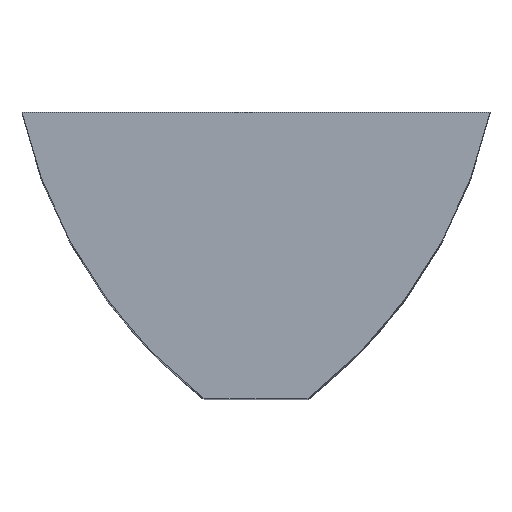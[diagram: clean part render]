
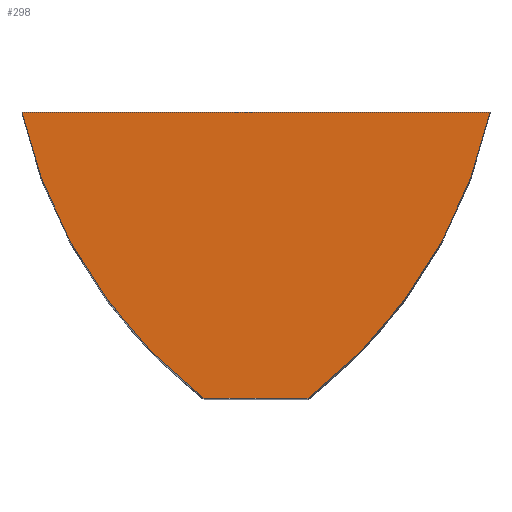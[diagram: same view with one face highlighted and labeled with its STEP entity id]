
A CAD part, top view. The second image highlights one B-rep face of the part: STEP entity #298.
In plain terms, the highlighted planar face has unit normal (0, 0, 1).
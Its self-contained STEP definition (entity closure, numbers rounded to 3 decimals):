
#48 = CARTESIAN_POINT ( 'NONE',  ( 1., 0., 8.5 ) ) ;
#55 = CARTESIAN_POINT ( 'NONE',  ( -1., 0., 8.5 ) ) ;
#75 = CARTESIAN_POINT ( 'NONE',  ( -4.5, 5.5, 8.5 ) ) ;
#160 = VECTOR ( 'NONE', #165, 1000. ) ;
#165 = DIRECTION ( 'NONE',  ( 1., 0., 0. ) ) ;
#168 = CARTESIAN_POINT ( 'NONE',  ( 0., 0., 8.5 ) ) ;
#169 = LINE ( 'NONE', #168, #160 ) ;
#172 = VECTOR ( 'NONE', #282, 1000. ) ;
#180 = LINE ( 'NONE', #279, #172 ) ;
#193 = FACE_OUTER_BOUND ( 'NONE', #342, .T. ) ;
#196 = CIRCLE ( 'NONE', #354, 9.5 ) ;
#203 = CIRCLE ( 'NONE', #386, 9.5 ) ;
#267 = EDGE_CURVE ( 'NONE', #382, #451, #203, .T. ) ;
#279 = CARTESIAN_POINT ( 'NONE',  ( 0., 5.5, 8.5 ) ) ;
#280 = ORIENTED_EDGE ( 'NONE', *, *, #283, .F. ) ;
#282 = DIRECTION ( 'NONE',  ( -1., 0., 0. ) ) ;
#283 = EDGE_CURVE ( 'NONE', #287, #465, #196, .T. ) ;
#287 = VERTEX_POINT ( 'NONE', #361 ) ;
#298 = ADVANCED_FACE ( 'NONE', ( #193 ), #333, .T. ) ;
#308 = EDGE_CURVE ( 'NONE', #287, #382, #180, .T. ) ;
#310 = ORIENTED_EDGE ( 'NONE', *, *, #267, .T. ) ;
#315 = EDGE_CURVE ( 'NONE', #451, #465, #169, .T. ) ;
#318 = DIRECTION ( 'NONE',  ( 1., 0., 0. ) ) ;
#320 = AXIS2_PLACEMENT_3D ( 'NONE', #340, #321, #318 ) ;
#321 = DIRECTION ( 'NONE',  ( 0., 0., 1. ) ) ;
#333 = PLANE ( 'NONE',  #320 ) ;
#336 = ORIENTED_EDGE ( 'NONE', *, *, #315, .T. ) ;
#340 = CARTESIAN_POINT ( 'NONE',  ( 0., 0., 8.5 ) ) ;
#342 = EDGE_LOOP ( 'NONE', ( #441, #310, #336, #280 ) ) ;
#354 = AXIS2_PLACEMENT_3D ( 'NONE', #377, #371, #370 ) ;
#361 = CARTESIAN_POINT ( 'NONE',  ( 4.5, 5.5, 8.5 ) ) ;
#370 = DIRECTION ( 'NONE',  ( 1., 0., 0. ) ) ;
#371 = DIRECTION ( 'NONE',  ( 0., 0., -1. ) ) ;
#377 = CARTESIAN_POINT ( 'NONE',  ( -4.778, 7.541, 8.5 ) ) ;
#382 = VERTEX_POINT ( 'NONE', #75 ) ;
#386 = AXIS2_PLACEMENT_3D ( 'NONE', #426, #424, #422 ) ;
#422 = DIRECTION ( 'NONE',  ( 1., 0., 0. ) ) ;
#424 = DIRECTION ( 'NONE',  ( 0., 0., 1. ) ) ;
#426 = CARTESIAN_POINT ( 'NONE',  ( 4.778, 7.541, 8.5 ) ) ;
#441 = ORIENTED_EDGE ( 'NONE', *, *, #308, .T. ) ;
#451 = VERTEX_POINT ( 'NONE', #55 ) ;
#465 = VERTEX_POINT ( 'NONE', #48 ) ;
